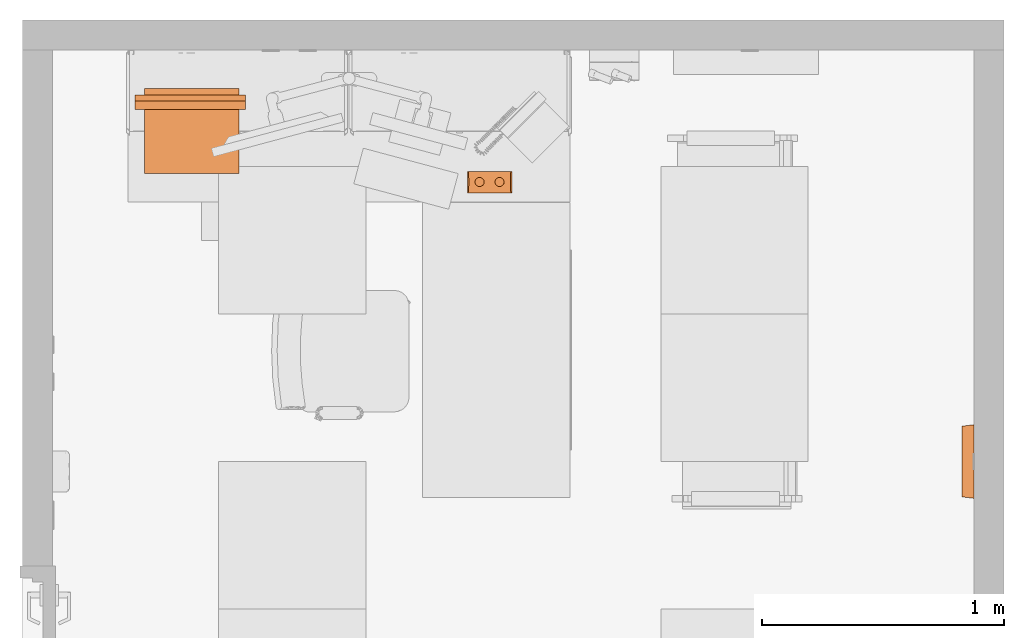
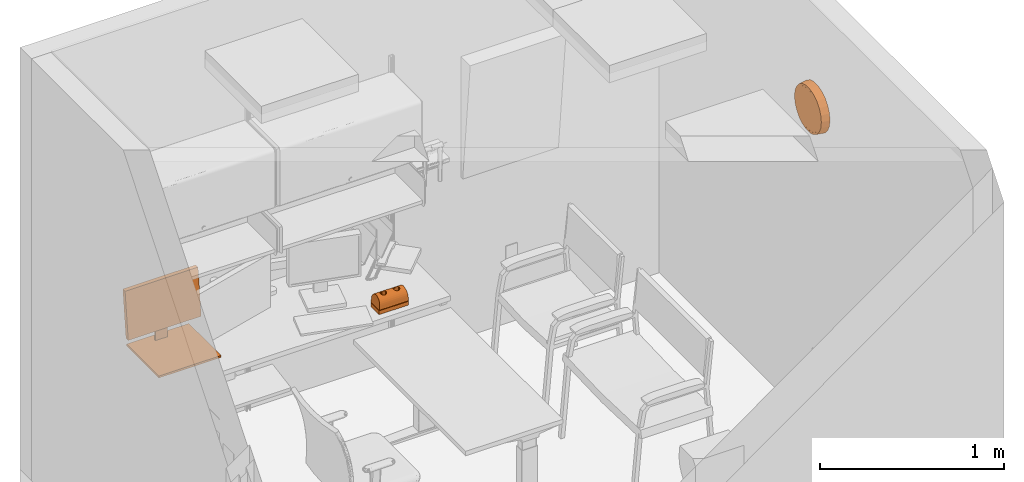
# One storey, part 8 of 9: 3 proxies.
"""IFC2X3 building model written with IfcOpenShell, lengths in feet."""

from ifc_helpers import new_model, entity, si_unit, converted_unit, derived_unit, direction, frame, origin, place, context, subcontext, project, spatial, faceted_brep, source, transform, mapped, type_object, type_shapes, element, save


model = new_model("IFC2X3")

# Units and contexts
model_context = context("Model", 3, precision=0.0001, world=origin(), true_north=direction((6.12303176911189e-17, 1.0)))
body_context = subcontext(model_context, "Body", "Model", "MODEL_VIEW")
ifc_project = project(units=[converted_unit("LENGTHUNIT", "FOOT", entity("IfcRatioMeasure", 0.3048), si_unit("LENGTHUNIT", "METRE"), dimensions=[1, 0, 0, 0, 0, 0, 0]), converted_unit("AREAUNIT", "SQUARE FOOT", entity("IfcRatioMeasure", 0.09290304), si_unit("AREAUNIT", "SQUARE_METRE"), dimensions=[2, 0, 0, 0, 0, 0, 0]), converted_unit("VOLUMEUNIT", "CUBIC FOOT", entity("IfcRatioMeasure", 0.028316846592), si_unit("VOLUMEUNIT", "CUBIC_METRE"), dimensions=[3, 0, 0, 0, 0, 0, 0]), converted_unit("PLANEANGLEUNIT", "DEGREE", entity("IfcRatioMeasure", 0.0174532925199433), si_unit("PLANEANGLEUNIT", "RADIAN"), dimensions=[0, 0, 0, 0, 0, 0, 0]), si_unit("MASSUNIT", "GRAM", prefix="KILO"), derived_unit("MASSDENSITYUNIT", [(si_unit("MASSUNIT", "GRAM", prefix="KILO"), 1), (si_unit("LENGTHUNIT", "METRE"), -3)]), si_unit("TIMEUNIT", "SECOND"), si_unit("FREQUENCYUNIT", "HERTZ"), si_unit("THERMODYNAMICTEMPERATUREUNIT", "DEGREE_CELSIUS"), derived_unit("THERMALTRANSMITTANCEUNIT", [(si_unit("MASSUNIT", "GRAM", prefix="KILO"), 1), (si_unit("THERMODYNAMICTEMPERATUREUNIT", "KELVIN"), -1), (si_unit("TIMEUNIT", "SECOND"), -3)]), derived_unit("VOLUMETRICFLOWRATEUNIT", [(si_unit("LENGTHUNIT", "METRE"), 3), (si_unit("TIMEUNIT", "SECOND"), -1)]), si_unit("ELECTRICCURRENTUNIT", "AMPERE"), si_unit("ELECTRICVOLTAGEUNIT", "VOLT"), si_unit("POWERUNIT", "WATT"), si_unit("FORCEUNIT", "NEWTON"), si_unit("ILLUMINANCEUNIT", "LUX"), si_unit("LUMINOUSFLUXUNIT", "LUMEN"), si_unit("LUMINOUSINTENSITYUNIT", "CANDELA"), derived_unit("USERDEFINED", [(si_unit("MASSUNIT", "GRAM", prefix="KILO"), -1), (si_unit("LENGTHUNIT", "METRE"), -2), (si_unit("TIMEUNIT", "SECOND"), 3), (si_unit("LUMINOUSFLUXUNIT", "LUMEN"), 1)]), derived_unit("LINEARVELOCITYUNIT", [(si_unit("LENGTHUNIT", "METRE"), 1), (si_unit("TIMEUNIT", "SECOND"), -1)]), si_unit("PRESSUREUNIT", "PASCAL"), derived_unit("USERDEFINED", [(si_unit("LENGTHUNIT", "METRE"), -2), (si_unit("MASSUNIT", "GRAM", prefix="KILO"), 1), (si_unit("TIMEUNIT", "SECOND"), -2)])], contexts=[model_context])

# Site, building, storey, space
site_placement = place(None, origin())
site = spatial("IfcSite", under=ifc_project, at=site_placement, Name="Default", CompositionType="ELEMENT")
building_placement = place(site_placement, origin())
building = spatial("IfcBuilding", under=site, at=building_placement, Name="AUDIOLOGY AND SPEECH PATHOLOGY (Ch. 204)", CompositionType="ELEMENT")
storey_placement = place(building_placement, frame((0.0, 0.0, 42.0)))
storey = spatial("IfcBuildingStorey", under=building, at=storey_placement, Name="AUD01 - Audiology Rehabilitation/Counseling", CompositionType="ELEMENT", Elevation=42.0)
space_placement = place(storey_placement, origin())
space = spatial("IfcSpace", under=storey, at=space_placement, Name="(AUD01)", CompositionType="ELEMENT", InteriorOrExteriorSpace="INTERNAL")

# Proxies
building_element_proxy_type_1 = type_object("IfcBuildingElementProxyType", Name="M4200 - Otoscope, Diagnostic, Desk-mounted", PredefinedType="NOTDEFINED")
shared_shape_1 = source(origin(), body_context, "Body", "Brep", [
    faceted_brep([(0.302083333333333, 0.145833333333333, 0.0), (0.302083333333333, -0.145833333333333, 0.0), (-0.302083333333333, -0.145833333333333, 0.0), (-0.302083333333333, 0.145833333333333, 0.0), (-0.302083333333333, -0.145833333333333, 0.0833333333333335), (-0.302083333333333, 0.145833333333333, 0.0833333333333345), (0.302083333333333, 0.145833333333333, 0.0833333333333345), (0.302083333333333, -0.145833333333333, 0.0833333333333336)], [[[0, 1, 2, 3]], [[3, 2, 4, 5]], [[1, 0, 6, 7]], [[6, 5, 4, 7]], [[2, 1, 7, 4]], [[0, 3, 5, 6]]]),
    faceted_brep([(-0.104166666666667, 0.0541265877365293, 0.166666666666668), (-0.119240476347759, 0.0603703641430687, 0.166666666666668), (-0.135416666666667, 0.0625000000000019, 0.166666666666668), (-0.151592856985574, 0.0603703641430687, 0.166666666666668), (-0.166666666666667, 0.0541265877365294, 0.166666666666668), (-0.179610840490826, 0.0441941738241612, 0.166666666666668), (-0.189543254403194, 0.0312500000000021, 0.166666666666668), (-0.195787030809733, 0.0161761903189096, 0.166666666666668), (-0.197916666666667, 0.0, 0.166666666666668), (-0.195787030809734, -0.0161761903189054, 0.166666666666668), (-0.189543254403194, -0.0312499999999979, 0.166666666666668), (-0.179610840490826, -0.0441941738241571, 0.166666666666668), (-0.166666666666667, -0.0541265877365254, 0.166666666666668), (-0.151592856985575, -0.0603703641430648, 0.166666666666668), (-0.135416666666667, -0.0624999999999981, 0.166666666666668), (-0.119240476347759, -0.0603703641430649, 0.166666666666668), (-0.104166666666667, -0.0541265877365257, 0.166666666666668), (-0.0912224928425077, -0.0441941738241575, 0.166666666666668), (-0.0812900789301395, -0.0312499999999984, 0.166666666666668), (-0.0750463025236, -0.016176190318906, 0.166666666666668), (-0.0729166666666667, 0.0, 0.166666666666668), (-0.0750463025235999, 0.0161761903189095, 0.166666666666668), (-0.0812900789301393, 0.0312500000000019, 0.166666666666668), (-0.0912224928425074, 0.0441941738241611, 0.166666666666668), (0.166666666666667, 0.054126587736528, 0.166666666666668), (0.151592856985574, 0.0603703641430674, 0.166666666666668), (0.135416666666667, 0.0625000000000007, 0.166666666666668), (0.119240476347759, 0.0603703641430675, 0.166666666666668), (0.104166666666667, 0.0541265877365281, 0.166666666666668), (0.0912224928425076, 0.04419417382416, 0.166666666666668), (0.0812900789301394, 0.0312500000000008, 0.166666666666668), (0.0750463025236, 0.0161761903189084, 0.166666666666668), (0.0729166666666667, 0.0, 0.166666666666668), (0.0750463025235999, -0.0161761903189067, 0.166666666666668), (0.0812900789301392, -0.0312499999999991, 0.166666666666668), (0.0912224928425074, -0.0441941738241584, 0.166666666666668), (0.104166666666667, -0.0541265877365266, 0.166666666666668), (0.119240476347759, -0.060370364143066, 0.166666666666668), (0.135416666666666, -0.0624999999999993, 0.166666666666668), (0.151592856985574, -0.0603703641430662, 0.166666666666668), (0.166666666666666, -0.0541265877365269, 0.166666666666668), (0.179610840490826, -0.0441941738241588, 0.166666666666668), (0.189543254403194, -0.0312499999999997, 0.166666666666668), (0.195787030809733, -0.0161761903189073, 0.166666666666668), (0.197916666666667, 0.0, 0.166666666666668), (0.195787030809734, 0.0161761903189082, 0.166666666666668), (0.189543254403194, 0.0312500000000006, 0.166666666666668), (0.179610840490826, 0.0441941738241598, 0.166666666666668), (-0.293881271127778, 0.145833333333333, 0.187500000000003), (0.293881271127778, 0.145833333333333, 0.187500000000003), (0.302083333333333, 0.145833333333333, 0.093750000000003), (-0.302083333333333, 0.145833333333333, 0.0937500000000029), (0.293881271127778, -0.145833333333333, 0.187500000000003), (-0.293881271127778, -0.145833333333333, 0.187500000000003), (-0.302083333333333, -0.145833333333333, 0.093750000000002), (0.302083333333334, -0.145833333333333, 0.0937500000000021), (-0.19408050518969, -0.0215593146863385, 0.331730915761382), (-0.166807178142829, -0.0540452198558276, 0.322949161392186), (-0.183246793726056, -0.0402309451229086, 0.327674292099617), (-0.156603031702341, -0.0577863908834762, 0.321333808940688), (-0.146398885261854, -0.0615275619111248, 0.31971845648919), (-0.195998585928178, -0.0107796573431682, 0.332532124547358), (-0.124451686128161, -0.0615306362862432, 0.319717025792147), (-0.11424158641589, -0.0577894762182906, 0.321332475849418), (-0.188663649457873, -0.0308951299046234, 0.329702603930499), (-0.197916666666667, 0.0, 0.333333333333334), (-0.135425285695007, -0.061529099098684, 0.319717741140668), (-0.104031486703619, -0.054048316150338, 0.32294792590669), (-0.0767545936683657, -0.021564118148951, 0.331730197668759), (-0.0876030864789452, -0.0402506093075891, 0.327668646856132), (-0.0748356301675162, -0.0107820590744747, 0.332531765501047), (-0.0729166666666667, 0.0, 0.333333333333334), (-0.11424158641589, 0.0577894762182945, 0.321332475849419), (-0.124451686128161, 0.061530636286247, 0.319717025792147), (-0.0748356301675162, 0.0107820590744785, 0.332531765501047), (-0.146398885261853, 0.0615275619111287, 0.31971845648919), (-0.156603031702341, 0.0577863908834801, 0.321333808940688), (-0.0767545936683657, 0.0215641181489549, 0.33173019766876), (-0.0876030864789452, 0.0402506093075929, 0.327668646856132), (-0.104031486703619, 0.0540483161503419, 0.32294792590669), (-0.166807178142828, 0.0540452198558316, 0.322949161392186), (-0.135425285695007, 0.0615290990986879, 0.319717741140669), (-0.19408050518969, 0.0215593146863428, 0.331730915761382), (-0.183246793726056, 0.0402309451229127, 0.327674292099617), (-0.195998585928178, 0.0107796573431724, 0.332532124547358), (-0.188663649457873, 0.0308951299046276, 0.329702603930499), (0.114230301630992, -0.0577863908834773, 0.321333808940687), (0.12443444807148, -0.061527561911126, 0.319718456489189), (0.0748347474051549, -0.0107796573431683, 0.332532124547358), (0.0729166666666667, 0.0, 0.333333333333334), (0.166801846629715, -0.0540483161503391, 0.32294792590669), (0.156591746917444, -0.0577894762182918, 0.321332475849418), (0.104026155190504, -0.0540452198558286, 0.322949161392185), (0.0875865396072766, -0.0402309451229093, 0.327674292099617), (0.0767528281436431, -0.0215593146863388, 0.331730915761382), (0.135408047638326, -0.0615290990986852, 0.319717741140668), (0.146381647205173, -0.0615306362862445, 0.319717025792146), (0.195997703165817, -0.0107820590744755, 0.332531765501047), (0.194078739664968, -0.0215641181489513, 0.331730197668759), (0.183230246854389, -0.0402506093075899, 0.327668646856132), (0.188654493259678, -0.0309073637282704, 0.329699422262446), (0.197916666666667, 0.0, 0.333333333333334), (0.194078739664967, 0.0215641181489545, 0.33173019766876), (0.195997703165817, 0.0107820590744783, 0.332531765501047), (0.166801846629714, 0.0540483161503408, 0.322947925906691), (0.183230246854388, 0.0402506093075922, 0.327668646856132), (0.156591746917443, 0.0577894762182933, 0.321332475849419), (0.146381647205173, 0.0615306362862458, 0.319717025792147), (0.188654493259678, 0.0309073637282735, 0.329699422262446), (0.135408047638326, 0.0615290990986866, 0.319717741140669), (0.12443444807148, 0.0615275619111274, 0.319718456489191), (0.114230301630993, 0.057786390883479, 0.321333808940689), (0.0748347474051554, 0.0107796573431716, 0.332532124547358), (0.076752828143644, 0.0215593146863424, 0.331730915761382), (0.0875865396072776, 0.0402309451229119, 0.327674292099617), (0.104026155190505, 0.0540452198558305, 0.322949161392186), (-0.290827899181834, 0.141595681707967, 0.222400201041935), (0.290827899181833, 0.141595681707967, 0.222400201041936), (-0.281215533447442, -0.00878913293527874, 0.332270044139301), (0.285420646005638, 0.109157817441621, 0.284205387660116), (0.287951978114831, 0.129129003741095, 0.255272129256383), (-0.287951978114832, 0.129129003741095, 0.255272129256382), (-0.285420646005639, 0.109157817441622, 0.284205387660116), (0.28195162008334, 0.0517132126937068, 0.323856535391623), (0.282666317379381, 0.0672779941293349, 0.315687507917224), (-0.283381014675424, 0.0828427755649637, 0.307518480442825), (0.283381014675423, 0.0828427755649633, 0.307518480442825), (-0.282666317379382, 0.0672779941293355, 0.315687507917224), (0.281215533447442, -0.00878913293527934, 0.332270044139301), (0.281215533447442, 0.0175782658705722, 0.3322700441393), (-0.28195162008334, 0.0517132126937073, 0.323856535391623), (-0.281583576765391, 0.0346457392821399, 0.328063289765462), (-0.281215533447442, 0.0175782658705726, 0.3322700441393), (-0.281583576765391, -0.0346457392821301, 0.328063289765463), (0.281951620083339, -0.0517132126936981, 0.323856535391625), (0.281583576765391, -0.0346457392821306, 0.328063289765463), (-0.281215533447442, -0.0175782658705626, 0.332270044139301), (0.281215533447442, 0.00878913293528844, 0.332270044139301), (0.281583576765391, 0.0346457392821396, 0.328063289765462), (0.281215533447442, -0.0175782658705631, 0.332270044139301), (0.281215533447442, 0.0, 0.332270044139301), (-0.281215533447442, 0.00878913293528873, 0.332270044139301), (-0.281215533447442, 0.0, 0.332270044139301), (-0.28195162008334, -0.0517132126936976, 0.323856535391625), (0.285420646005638, -0.109157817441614, 0.28420538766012), (0.283381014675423, -0.082842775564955, 0.307518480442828), (-0.283381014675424, -0.0828427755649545, 0.307518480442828), (-0.285420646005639, -0.109157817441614, 0.28420538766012), (-0.290827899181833, -0.141595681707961, 0.222400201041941), (0.290827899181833, -0.141595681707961, 0.222400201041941), (0.287951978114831, -0.129129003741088, 0.255272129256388), (-0.287951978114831, -0.129129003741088, 0.255272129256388), (0.282666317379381, -0.0672779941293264, 0.315687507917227), (-0.282666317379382, -0.067277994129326, 0.315687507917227)], [[[0, 1, 2, 3, 4, 5, 6, 7, 8, 9, 10, 11, 12, 13, 14, 15, 16, 17, 18, 19, 20, 21, 22, 23]], [[24, 25, 26, 27, 28, 29, 30, 31, 32, 33, 34, 35, 36, 37, 38, 39, 40, 41, 42, 43, 44, 45, 46, 47]], [[48, 49, 50, 51]], [[52, 53, 54, 55]], [[10, 9, 56]], [[12, 11, 57]], [[58, 11, 10]], [[12, 59, 13]], [[59, 60, 13]], [[61, 56, 9]], [[15, 62, 63]], [[10, 56, 64, 58]], [[57, 11, 58]], [[59, 12, 57]], [[8, 65, 61]], [[66, 62, 14, 60]], [[13, 60, 14]], [[16, 67, 17]], [[19, 18, 68]], [[69, 18, 17]], [[70, 71, 20]], [[15, 14, 62]], [[15, 63, 16]], [[67, 16, 63]], [[17, 67, 69]], [[69, 68, 18]], [[19, 70, 20]], [[19, 68, 70]], [[9, 8, 61]], [[72, 73, 1]], [[20, 71, 74]], [[3, 75, 76]], [[1, 0, 72]], [[21, 20, 74]], [[22, 21, 77]], [[77, 78, 22]], [[74, 77, 21]], [[23, 79, 0]], [[0, 79, 72]], [[78, 79, 23]], [[22, 78, 23]], [[80, 4, 76]], [[81, 75, 2, 73]], [[1, 73, 2]], [[4, 80, 5]], [[7, 6, 82]], [[83, 6, 5]], [[84, 65, 8]], [[3, 2, 75]], [[3, 76, 4]], [[5, 80, 83]], [[6, 83, 85, 82]], [[7, 82, 84]], [[7, 84, 8]], [[86, 87, 37]], [[33, 32, 88]], [[32, 89, 88]], [[90, 40, 91]], [[92, 36, 35]], [[93, 35, 34]], [[37, 87, 38]], [[94, 34, 33]], [[94, 93, 34]], [[88, 94, 33]], [[36, 92, 86]], [[35, 93, 92]], [[95, 96, 38, 87]], [[36, 86, 37]], [[43, 97, 44]], [[38, 96, 39]], [[98, 43, 42]], [[99, 42, 41]], [[90, 41, 40]], [[39, 91, 40]], [[99, 41, 90]], [[43, 98, 97]], [[42, 99, 100, 98]], [[44, 97, 101]], [[39, 96, 91]], [[46, 45, 102]], [[44, 101, 103]], [[24, 47, 104]], [[105, 47, 46]], [[106, 25, 24]], [[106, 107, 25]], [[103, 102, 45]], [[25, 107, 26]], [[46, 102, 108, 105]], [[104, 47, 105]], [[106, 24, 104]], [[45, 44, 103]], [[109, 110, 26, 107]], [[27, 110, 111]], [[31, 112, 32]], [[26, 110, 27]], [[113, 31, 30]], [[114, 30, 29]], [[115, 29, 28]], [[27, 111, 28]], [[114, 29, 115]], [[31, 113, 112]], [[30, 114, 113]], [[32, 112, 89]], [[115, 28, 111]], [[116, 117, 49, 48]], [[65, 118, 61]], [[119, 120, 121, 122]], [[107, 123, 124]], [[120, 117, 116, 121]], [[122, 125, 126, 119]], [[125, 127, 73]], [[128, 101, 97]], [[129, 102, 103]], [[75, 127, 130]], [[126, 125, 73]], [[110, 73, 72, 79]], [[130, 83, 80]], [[131, 132, 82]], [[85, 83, 131, 82]], [[56, 133, 58, 64]], [[78, 77, 114]], [[113, 77, 74, 71]], [[79, 78, 115]], [[82, 132, 84]], [[130, 80, 76, 75]], [[71, 89, 112, 113]], [[126, 110, 124]], [[124, 110, 109, 107]], [[99, 134, 135]], [[136, 56, 61]], [[123, 107, 106, 104]], [[126, 73, 110]], [[101, 137, 103]], [[105, 123, 104]], [[113, 114, 77]], [[79, 115, 111, 110]], [[105, 138, 123]], [[138, 102, 129]], [[103, 137, 129]], [[97, 139, 128]], [[137, 101, 128, 140]], [[102, 138, 105, 108]], [[78, 114, 115]], [[141, 65, 84]], [[118, 65, 141, 142]], [[61, 118, 136]], [[84, 132, 141]], [[58, 133, 143]], [[133, 56, 136]], [[83, 130, 131]], [[58, 143, 57]], [[68, 69, 93]], [[143, 60, 59, 57]], [[144, 145, 146, 147]], [[148, 149, 150, 151]], [[152, 96, 95, 87]], [[150, 144, 147, 151]], [[145, 62, 146]], [[153, 62, 66, 60]], [[146, 62, 153]], [[87, 67, 63, 62]], [[67, 92, 69]], [[53, 52, 149, 148]], [[94, 71, 70, 68]], [[94, 68, 93]], [[92, 93, 69]], [[100, 99, 135, 98]], [[139, 97, 98]], [[135, 139, 98]], [[90, 134, 99]], [[60, 143, 153]], [[71, 94, 88, 89]], [[152, 134, 96]], [[152, 87, 145]], [[62, 145, 87]], [[134, 90, 91, 96]], [[67, 87, 86, 92]], [[127, 75, 81, 73]], [[50, 55, 54, 51]], [[125, 122, 121, 116, 48, 51, 54, 53, 148, 151, 147, 146, 153, 143, 133, 136, 118, 142, 141, 132, 131, 130, 127]], [[120, 119, 126, 124, 123, 138, 129, 137, 140, 128, 139, 135, 134, 152, 145, 144, 150, 149, 52, 55, 50, 49, 117]]]),
])
type_shapes(building_element_proxy_type_1, [shared_shape_1])
proxy_1_placement = place(space_placement, frame((5.10416666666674, 9.96875000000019, 2.66798809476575)))
element("IfcBuildingElementProxy", 1, at=proxy_1_placement, inside=space, type_object=building_element_proxy_type_1, Name="M4200 - Otoscope, Diagnostic, Desk-mounted:M4200 - Otoscope, Diagnostic, Desk-mounted", ObjectType="M4200 - Otoscope, Diagnostic, Desk-mounted", context=body_context, shape_type="MappedRepresentation", body=[
    mapped(shared_shape_1, transform((0.0, 0.0, 0.0), scale=1.0)),
])
building_element_proxy_type_2 = type_object("IfcBuildingElementProxyType", Name="F2247 - Magnifier, Video, Desktop", PredefinedType="NOTDEFINED")
shared_shape_2 = source(origin(), body_context, "Body", "Brep", [
    faceted_brep([(0.125, 0.499999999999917, 0.0416666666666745), (0.125, 0.541666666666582, 0.0416666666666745), (0.125, 0.541666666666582, 0.962012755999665), (0.125, 0.499999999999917, 0.590692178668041), (-0.125, 0.541666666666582, 0.0416666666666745), (-0.125, 0.499999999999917, 0.0416666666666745), (-0.125, 0.499999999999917, 0.590692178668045), (-0.125, 0.541666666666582, 0.962012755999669), (0.749999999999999, 0.471121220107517, 0.333333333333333), (0.749999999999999, 0.583333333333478, 1.33333333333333), (0.749999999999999, 0.499476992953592, 1.33333333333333), (0.75, 0.387264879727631, 0.333333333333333), (-0.750000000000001, 0.471121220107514, 0.333333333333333), (-0.75, 0.387264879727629, 0.333333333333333), (-0.750000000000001, 0.49947699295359, 1.33333333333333), (-0.750000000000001, 0.583333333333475, 1.33333333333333)], [[[0, 1, 2, 3]], [[4, 5, 6, 7]], [[1, 4, 7, 2]], [[5, 0, 3, 6]], [[1, 0, 5, 4]], [[8, 9, 10, 11]], [[12, 13, 14, 15]], [[3, 2, 7, 6], [9, 8, 12, 15]], [[10, 9, 15, 14]], [[11, 10, 14, 13]], [[8, 11, 13, 12]]], outer=[[True], [True], [True], [True], [True], [True], [True], [False, True], [True], [True], [True]]),
    faceted_brep([(0.6567826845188, -0.483014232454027, 0.0416666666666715), (0.6567826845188, -0.483014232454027, 0.0), (0.6567826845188, 0.666666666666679, 0.0), (0.6567826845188, 0.666666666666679, 0.0416666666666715), (-0.621930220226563, -0.483014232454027, 0.0416666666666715), (-0.621930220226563, 0.666666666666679, 0.0416666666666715), (-0.621930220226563, 0.666666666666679, 0.0), (-0.621930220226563, -0.483014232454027, 0.0)], [[[0, 1, 2, 3]], [[4, 5, 6, 7]], [[1, 0, 4, 7]], [[2, 1, 7, 6]], [[3, 2, 6, 5]], [[0, 3, 5, 4]]]),
])
type_shapes(building_element_proxy_type_2, [shared_shape_2])
proxy_2_placement = place(space_placement, frame((1.04687500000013, 10.5677083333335, 2.66666666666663)))
element("IfcBuildingElementProxy", 2, at=proxy_2_placement, inside=space, type_object=building_element_proxy_type_2, Name="F2247 - Magnifier, Video, Desktop:F2247 - Magnifier, Video, Desktop", ObjectType="F2247 - Magnifier, Video, Desktop", context=body_context, shape_type="MappedRepresentation", body=[
    mapped(shared_shape_2, transform((0.0, 0.0, 0.0), scale=1.0)),
])
building_element_proxy_type_3 = type_object("IfcBuildingElementProxyType", Name="F3200 - Clock, Battery, 12in Dia", PredefinedType="NOTDEFINED")
shared_shape_3 = source(origin(), body_context, "Body", "Brep", [
    faceted_brep([(0.218750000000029, 0.121113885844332, 0.16666666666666), (0.309359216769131, 0.190640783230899, 0.16666666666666), (0.3788861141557, 0.281250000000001, 0.16666666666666), (0.422592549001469, 0.386766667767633, 0.16666666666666), (0.437500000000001, 0.499999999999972, 0.16666666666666), (0.42259254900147, 0.613233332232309, 0.16666666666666), (0.378886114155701, 0.718749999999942, 0.16666666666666), (0.309359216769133, 0.809359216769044, 0.16666666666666), (0.218750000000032, 0.878886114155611, 0.16666666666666), (0.113233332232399, 0.922592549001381, 0.16666666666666), (0.0, 0.937499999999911, 0.16666666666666), (-0.113233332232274, 0.922592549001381, 0.16666666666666), (-0.218749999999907, 0.878886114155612, 0.16666666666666), (-0.309359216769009, 0.809359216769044, 0.16666666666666), (-0.378886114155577, 0.718749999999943, 0.16666666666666), (-0.422592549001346, 0.613233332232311, 0.16666666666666), (-0.437499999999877, 0.499999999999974, 0.16666666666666), (-0.422592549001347, 0.386766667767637, 0.16666666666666), (-0.378886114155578, 0.281250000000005, 0.16666666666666), (-0.309359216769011, 0.190640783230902, 0.16666666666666), (-0.218749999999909, 0.121113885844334, 0.16666666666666), (-0.113233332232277, 0.0774074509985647, 0.16666666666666), (0.0, 0.0625000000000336, 0.16666666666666), (0.113233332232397, 0.0774074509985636, 0.16666666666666), (0.42259254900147, 0.613233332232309, 0.145833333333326), (0.437500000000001, 0.49999999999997, 0.145833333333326), (0.422592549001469, 0.386766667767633, 0.145833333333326), (0.3788861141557, 0.281250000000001, 0.145833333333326), (0.309359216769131, 0.190640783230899, 0.145833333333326), (0.218750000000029, 0.121113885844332, 0.145833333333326), (0.113233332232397, 0.0774074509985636, 0.145833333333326), (0.0, 0.0625000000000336, 0.145833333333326), (-0.113233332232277, 0.0774074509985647, 0.145833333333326), (-0.218749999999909, 0.121113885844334, 0.145833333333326), (-0.309359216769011, 0.190640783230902, 0.145833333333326), (-0.378886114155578, 0.281250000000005, 0.145833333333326), (-0.422592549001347, 0.386766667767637, 0.145833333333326), (-0.437499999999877, 0.499999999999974, 0.145833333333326), (-0.422592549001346, 0.613233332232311, 0.145833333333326), (-0.378886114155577, 0.718749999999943, 0.145833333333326), (-0.309359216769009, 0.809359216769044, 0.145833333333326), (-0.218749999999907, 0.878886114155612, 0.145833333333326), (-0.113233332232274, 0.922592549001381, 0.145833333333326), (0.0, 0.937499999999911, 0.145833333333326), (0.113233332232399, 0.922592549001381, 0.145833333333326), (0.218750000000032, 0.878886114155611, 0.145833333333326), (0.309359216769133, 0.809359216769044, 0.145833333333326), (0.378886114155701, 0.718749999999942, 0.145833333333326)], [[[0, 1, 2, 3, 4, 5, 6, 7, 8, 9, 10, 11, 12, 13, 14, 15, 16, 17, 18, 19, 20, 21, 22, 23]], [[24, 25, 26, 27, 28, 29, 30, 31, 32, 33, 34, 35, 36, 37, 38, 39, 40, 41, 42, 43, 44, 45, 46, 47]], [[36, 17, 16, 37]], [[35, 18, 17, 36]], [[20, 19, 34, 33]], [[35, 34, 19, 18]], [[21, 20, 33, 32]], [[22, 21, 32, 31]], [[30, 23, 22, 31]], [[29, 0, 23, 30]], [[2, 1, 28, 27]], [[29, 28, 1, 0]], [[3, 2, 27, 26]], [[4, 3, 26, 25]], [[24, 5, 4, 25]], [[47, 6, 5, 24]], [[8, 7, 46, 45]], [[47, 46, 7, 6]], [[9, 8, 45, 44]], [[10, 9, 44, 43]], [[11, 10, 43, 42]], [[12, 11, 42, 41]], [[14, 39, 38, 15]], [[15, 38, 37, 16]], [[12, 41, 40, 13]], [[40, 39, 14, 13]]]),
    faceted_brep([(-0.327430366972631, 0.122125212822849, 0.0), (-0.420626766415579, 0.229679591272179, 0.0), (0.0, 0.499999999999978, 0.0), (-0.207707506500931, 0.045184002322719, 0.0), (-0.479746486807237, 0.359133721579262, 0.0), (-0.499999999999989, 0.499999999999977, 0.0), (-0.479746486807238, 0.640866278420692, 0.0), (-0.420626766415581, 0.770320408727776, 0.0), (-0.327430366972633, 0.877874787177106, 0.0), (-0.207707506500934, 0.954815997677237, 0.0), (-0.0711574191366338, 0.994910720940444, 0.0), (0.0711574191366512, 0.994910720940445, 0.0), (0.207707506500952, 0.954815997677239, 0.0), (0.327430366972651, 0.877874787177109, 0.0), (0.4206267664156, 0.77032040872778, 0.0), (0.479746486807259, 0.640866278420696, 0.0), (0.500000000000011, 0.499999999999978, 0.0), (0.47974648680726, 0.359133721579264, 0.0), (0.420626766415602, 0.22967959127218, 0.0), (0.327430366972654, 0.12212521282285, 0.0), (0.207707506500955, 0.0451840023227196, 0.0), (0.0711574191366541, 0.00508927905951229, 0.0), (-0.0711574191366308, 0.00508927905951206, 0.0), (0.0, 0.499999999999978, 0.145833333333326), (-0.368048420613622, 0.263469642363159, 0.145833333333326), (-0.286501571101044, 0.169359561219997, 0.145833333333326), (-0.419778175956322, 0.376742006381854, 0.145833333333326), (-0.181744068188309, 0.102036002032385, 0.145833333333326), (-0.0622627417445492, 0.0669531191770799, 0.145833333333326), (-0.437499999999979, 0.499999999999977, 0.145833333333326), (0.0622627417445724, 0.0669531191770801, 0.145833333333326), (0.181744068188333, 0.102036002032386, 0.145833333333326), (0.286501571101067, 0.169359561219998, 0.145833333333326), (0.368048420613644, 0.26346964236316, 0.145833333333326), (0.419778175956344, 0.376742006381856, 0.145833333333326), (0.437500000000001, 0.499999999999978, 0.145833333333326), (-0.419778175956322, 0.623257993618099, 0.145833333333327), (-0.368048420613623, 0.736530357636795, 0.145833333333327), (-0.286501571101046, 0.830640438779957, 0.145833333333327), (-0.181744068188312, 0.89796399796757, 0.145833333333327), (-0.0622627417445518, 0.933046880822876, 0.145833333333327), (0.419778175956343, 0.623257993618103, 0.145833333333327), (0.368048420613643, 0.736530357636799, 0.145833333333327), (0.286501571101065, 0.83064043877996, 0.145833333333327), (0.18174406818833, 0.897963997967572, 0.145833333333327), (0.0622627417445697, 0.933046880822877, 0.145833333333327), (0.419778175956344, 0.376742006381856, 0.16666666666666), (0.437500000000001, 0.499999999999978, 0.16666666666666), (0.368048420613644, 0.26346964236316, 0.16666666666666), (0.0622627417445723, 0.0669531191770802, 0.166666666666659), (0.181744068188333, 0.102036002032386, 0.166666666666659), (0.286501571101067, 0.169359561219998, 0.166666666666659), (-0.0622627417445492, 0.06695311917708, 0.166666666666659), (-0.286501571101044, 0.169359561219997, 0.166666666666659), (-0.18174406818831, 0.102036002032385, 0.166666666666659), (-0.437499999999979, 0.499999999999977, 0.16666666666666), (-0.419778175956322, 0.376742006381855, 0.16666666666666), (-0.368048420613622, 0.263469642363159, 0.16666666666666), (-0.419778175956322, 0.623257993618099, 0.16666666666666), (-0.368048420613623, 0.736530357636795, 0.16666666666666), (-0.181744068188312, 0.89796399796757, 0.166666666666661), (-0.286501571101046, 0.830640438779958, 0.166666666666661), (-0.0622627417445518, 0.933046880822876, 0.166666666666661), (0.0622627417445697, 0.933046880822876, 0.166666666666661), (0.18174406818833, 0.897963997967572, 0.166666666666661), (0.286501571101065, 0.83064043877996, 0.166666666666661), (0.419778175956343, 0.623257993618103, 0.16666666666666), (0.368048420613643, 0.736530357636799, 0.16666666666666), (-0.459757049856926, 0.365003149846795, 0.16666666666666), (-0.479166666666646, 0.499999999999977, 0.16666666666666), (-0.403100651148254, 0.240942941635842, 0.16666666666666), (-0.313787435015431, 0.137869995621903, 0.166666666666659), (-0.199053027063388, 0.0641346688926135, 0.166666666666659), (-0.0681925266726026, 0.0257105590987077, 0.166666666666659), (0.068192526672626, 0.0257105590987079, 0.166666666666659), (0.199053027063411, 0.0641346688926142, 0.166666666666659), (0.313787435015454, 0.137869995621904, 0.166666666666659), (0.403100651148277, 0.240942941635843, 0.16666666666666), (0.459757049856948, 0.365003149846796, 0.16666666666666), (0.479166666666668, 0.499999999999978, 0.16666666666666), (0.459757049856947, 0.634996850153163, 0.16666666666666), (0.403100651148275, 0.759057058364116, 0.16666666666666), (0.313787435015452, 0.862130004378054, 0.166666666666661), (0.199053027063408, 0.935865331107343, 0.166666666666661), (0.068192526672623, 0.974289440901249, 0.166666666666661), (-0.0681925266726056, 0.974289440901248, 0.166666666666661), (-0.199053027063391, 0.935865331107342, 0.166666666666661), (-0.313787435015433, 0.862130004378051, 0.166666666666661), (-0.403100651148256, 0.759057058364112, 0.16666666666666), (-0.459757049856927, 0.634996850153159, 0.16666666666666)], [[[0, 1, 2]], [[0, 2, 3]], [[4, 2, 1]], [[2, 4, 5]], [[5, 6, 2]], [[2, 6, 7]], [[2, 7, 8]], [[2, 8, 9]], [[9, 10, 2]], [[11, 2, 10]], [[2, 11, 12]], [[2, 12, 13]], [[14, 2, 13]], [[2, 14, 15]], [[15, 16, 2]], [[2, 16, 17]], [[2, 17, 18]], [[18, 19, 2]], [[19, 20, 2]], [[21, 2, 20]], [[2, 21, 22]], [[22, 3, 2]], [[23, 24, 25]], [[24, 23, 26]], [[27, 23, 25]], [[23, 27, 28]], [[29, 26, 23]], [[28, 30, 23]], [[31, 23, 30]], [[23, 31, 32]], [[23, 32, 33]], [[33, 34, 23]], [[34, 35, 23]], [[23, 36, 29]], [[37, 36, 23]], [[38, 37, 23]], [[39, 38, 23]], [[23, 40, 39]], [[23, 35, 41]], [[41, 42, 23]], [[43, 23, 42]], [[43, 44, 23]], [[44, 45, 23]], [[40, 23, 45]], [[46, 47, 35, 34]], [[46, 34, 33, 48]], [[31, 30, 49, 50]], [[32, 31, 50, 51]], [[51, 48, 33, 32]], [[30, 28, 52, 49]], [[27, 25, 53, 54]], [[28, 27, 54, 52]], [[29, 55, 56, 26]], [[26, 56, 57, 24]], [[24, 57, 53, 25]], [[55, 29, 36, 58]], [[58, 36, 37, 59]], [[60, 61, 38, 39]], [[59, 37, 38, 61]], [[39, 40, 62, 60]], [[40, 45, 63, 62]], [[64, 63, 45, 44]], [[64, 44, 43, 65]], [[41, 35, 47, 66]], [[42, 41, 66, 67]], [[67, 65, 43, 42]], [[68, 55, 69]], [[56, 55, 68]], [[68, 70, 56]], [[70, 57, 56]], [[71, 57, 70]], [[57, 71, 53]], [[72, 53, 71]], [[54, 53, 72]], [[72, 73, 54]], [[73, 52, 54]], [[49, 52, 73]], [[73, 74, 49]], [[74, 50, 49]], [[75, 50, 74]], [[50, 75, 51]], [[76, 51, 75]], [[48, 51, 76]], [[76, 77, 48]], [[77, 46, 48]], [[78, 46, 77]], [[46, 78, 47]], [[78, 79, 47]], [[79, 80, 47]], [[66, 47, 80]], [[80, 81, 66]], [[66, 81, 67]], [[82, 67, 81]], [[67, 82, 65]], [[65, 82, 83]], [[64, 65, 83]], [[83, 84, 64]], [[64, 84, 63]], [[85, 63, 84]], [[63, 85, 62]], [[62, 85, 60]], [[86, 60, 85]], [[60, 86, 61]], [[61, 86, 87]], [[59, 61, 87]], [[87, 88, 59]], [[59, 88, 58]], [[89, 58, 88]], [[55, 89, 69]], [[58, 89, 55]], [[78, 17, 16, 79]], [[77, 18, 17, 78]], [[19, 76, 75, 20]], [[77, 76, 19, 18]], [[20, 75, 74, 21]], [[74, 73, 22, 21]], [[22, 73, 72, 3]], [[0, 3, 72, 71]], [[4, 1, 70, 68]], [[70, 1, 0, 71]], [[5, 4, 68, 69]], [[89, 6, 5, 69]], [[88, 7, 6, 89]], [[8, 87, 86, 9]], [[88, 87, 8, 7]], [[9, 86, 85, 10]], [[85, 84, 11, 10]], [[83, 12, 11, 84]], [[82, 13, 12, 83]], [[14, 81, 80, 15]], [[82, 81, 14, 13]], [[15, 80, 79, 16]]]),
])
type_shapes(building_element_proxy_type_3, [shared_shape_3])
proxy_3_placement = place(space_placement, frame((11.6770833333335, 6.17708333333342, 6.50000000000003), z_axis=(-1.0, 0.0, 0.0), x_axis=(0.0, -1.0, 0.0)))
element("IfcBuildingElementProxy", 3, at=proxy_3_placement, inside=space, type_object=building_element_proxy_type_3, Name="F3200 - Clock, Battery, 12in Diameter:F3200 - Clock, Battery, 12in Dia", ObjectType="F3200 - Clock, Battery, 12in Dia", context=body_context, shape_type="MappedRepresentation", body=[
    mapped(shared_shape_3, transform((0.0, 0.0, 0.0), scale=1.0)),
])

save(model, "model.ifc")
